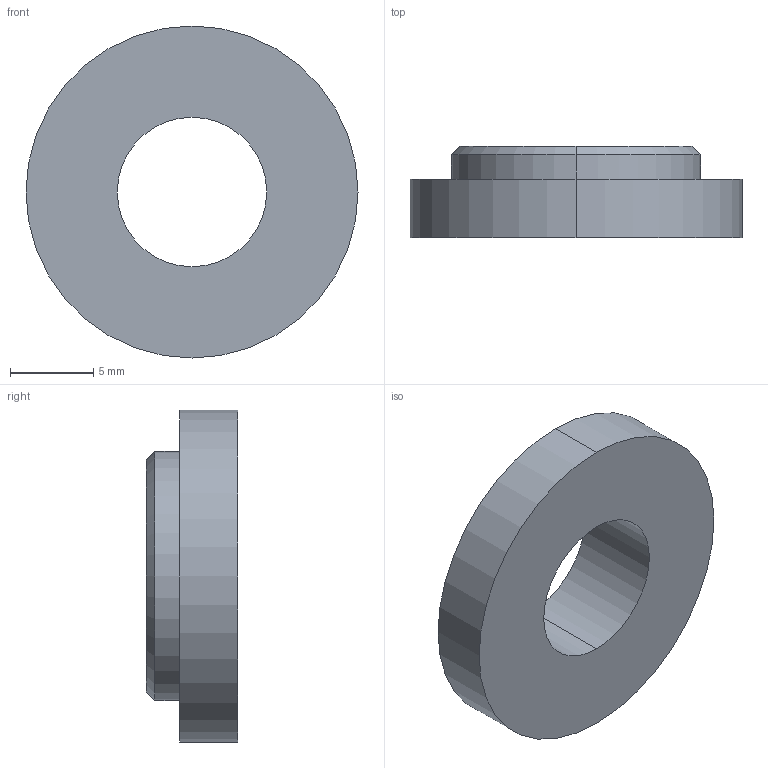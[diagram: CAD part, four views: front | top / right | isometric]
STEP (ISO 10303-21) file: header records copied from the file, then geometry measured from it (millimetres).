
FILE_DESCRIPTION (( 'STEP AP203' ), '1' );
FILE_NAME ('084.801.042.STEP', '2013-01-29T10:35:34', ( 'Alusic' ), ( 'Alusic' ), 'SwSTEP 2.0', 'SolidWorks 2011', '' );
FILE_SCHEMA (( 'CONFIG_CONTROL_DESIGN' ));
Length unit declared in the file: millimetre
Products named in the file (1): 084.801.042
Bounding box: 20 x 5.5 x 20 mm (x, y, z)
Volume: 1097.3 mm3; surface area: 956.6 mm2
Topology: 1 solids, 1 shells, 11 faces, 22 edges, 14 vertices
Faces by surface type: cylinder 6, plane 3, cone 2
Entity records: 375 total; most frequent: DIRECTION 60, CARTESIAN_POINT 48, ORIENTED_EDGE 44, AXIS2_PLACEMENT_3D 26, EDGE_CURVE 22, VERTEX_POINT 14, CIRCLE 14, EDGE_LOOP 14
